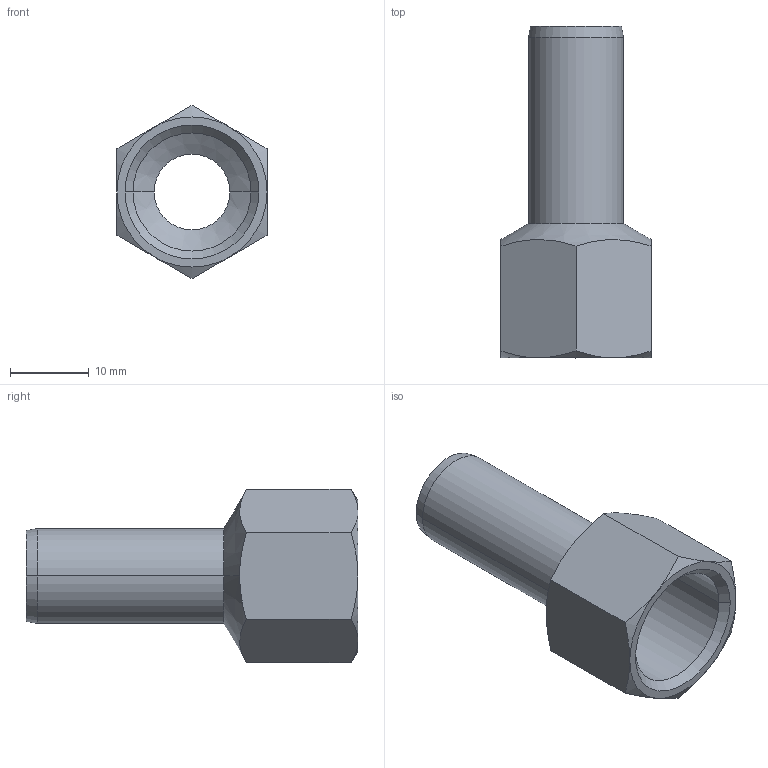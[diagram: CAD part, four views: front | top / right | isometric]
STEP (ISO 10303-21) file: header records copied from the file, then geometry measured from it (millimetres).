
FILE_DESCRIPTION(('OneSpaceDesigner STEP Export'),'2;1');
FILE_NAME('C1433 12xRp3-8.stp','2010-06-15T16:35:13',(''),(''),'OneSpace Designer STEP processor for AP214 (Solid Model)','OneSpace Modeling 15.00A 14-Mar-2007 (C) CoCreate Software GmbH','');
FILE_SCHEMA(('AUTOMOTIVE_DESIGN { 1 0 10303 214 1 1 1 1 }'));
Length unit declared in the file: millimetre
Products named in the file (2): C1433_12xRp3-8
Assembly tree (1 placements, depth 2):
  C1433_12xRp3-8
    C1433_12xRp3-8
Bounding box: 19 x 42 x 21.94 mm (x, y, z)
Volume: 3294.3 mm3; surface area: 3841.7 mm2
Topology: 1 solids, 1 shells, 28 faces, 62 edges, 36 vertices
Faces by surface type: cone 14, plane 8, cylinder 6
Entity records: 1510 total; most frequent: CARTESIAN_POINT 949, ORIENTED_EDGE 124, DIRECTION 74, EDGE_CURVE 62, VERTEX_POINT 36, EDGE_LOOP 30, FACE_OUTER_BOUND 28, ADVANCED_FACE 28
